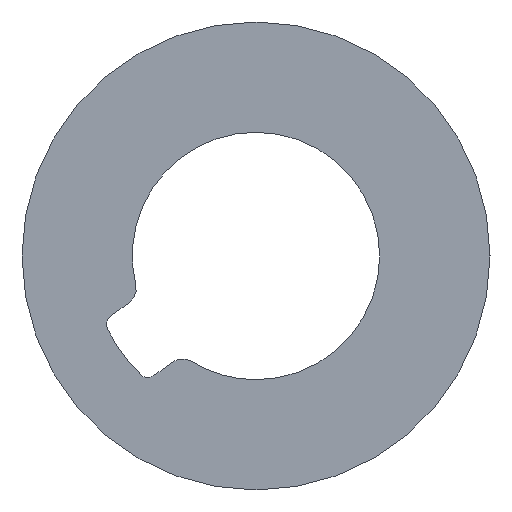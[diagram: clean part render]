
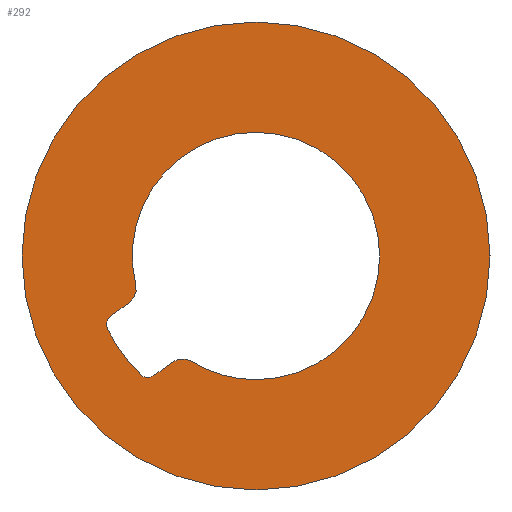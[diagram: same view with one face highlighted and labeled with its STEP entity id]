
A CAD part, left-side view. The second image highlights one B-rep face of the part: STEP entity #292.
In plain terms, the highlighted planar face has unit normal (-1, 0, 0).
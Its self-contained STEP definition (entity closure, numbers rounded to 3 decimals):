
#13 = AXIS2_PLACEMENT_3D ( 'NONE', #361, #360, #359 ) ;
#27 = AXIS2_PLACEMENT_3D ( 'NONE', #418, #416, #415 ) ;
#28 = AXIS2_PLACEMENT_3D ( 'NONE', #424, #423, #422 ) ;
#35 = AXIS2_PLACEMENT_3D ( 'NONE', #459, #457, #456 ) ;
#37 = AXIS2_PLACEMENT_3D ( 'NONE', #472, #471, #470 ) ;
#39 = AXIS2_PLACEMENT_3D ( 'NONE', #484, #482, #481 ) ;
#41 = AXIS2_PLACEMENT_3D ( 'NONE', #498, #496, #495 ) ;
#43 = AXIS2_PLACEMENT_3D ( 'NONE', #524, #522, #521 ) ;
#44 = AXIS2_PLACEMENT_3D ( 'NONE', #358, #354, #525 ) ;
#45 = AXIS2_PLACEMENT_3D ( 'NONE', #371, #367, #363 ) ;
#47 = AXIS2_PLACEMENT_3D ( 'NONE', #421, #417, #414 ) ;
#48 = AXIS2_PLACEMENT_3D ( 'NONE', #432, #429, #425 ) ;
#49 = EDGE_CURVE ( 'NONE', #458, #497, #230, .T. ) ;
#50 = EDGE_CURVE ( 'NONE', #507, #483, #228, .T. ) ;
#54 = EDGE_CURVE ( 'NONE', #497, #501, #221, .T. ) ;
#55 = EDGE_CURVE ( 'NONE', #501, #507, #216, .T. ) ;
#56 = EDGE_CURVE ( 'NONE', #483, #510, #215, .T. ) ;
#57 = EDGE_CURVE ( 'NONE', #510, #480, #213, .T. ) ;
#65 = EDGE_CURVE ( 'NONE', #451, #513, #197, .T. ) ;
#69 = EDGE_CURVE ( 'NONE', #519, #490, #189, .T. ) ;
#72 = EDGE_CURVE ( 'NONE', #469, #519, #183, .T. ) ;
#76 = EDGE_CURVE ( 'NONE', #490, #458, #175, .T. ) ;
#85 = EDGE_CURVE ( 'NONE', #513, #451, #157, .T. ) ;
#86 = EDGE_CURVE ( 'NONE', #480, #487, #158, .T. ) ;
#87 = EDGE_CURVE ( 'NONE', #487, #469, #154, .T. ) ;
#93 = ORIENTED_EDGE ( 'NONE', *, *, #86, .T. ) ;
#94 = ORIENTED_EDGE ( 'NONE', *, *, #65, .F. ) ;
#95 = ORIENTED_EDGE ( 'NONE', *, *, #85, .F. ) ;
#96 = ORIENTED_EDGE ( 'NONE', *, *, #87, .T. ) ;
#97 = ORIENTED_EDGE ( 'NONE', *, *, #69, .T. ) ;
#98 = ORIENTED_EDGE ( 'NONE', *, *, #72, .T. ) ;
#104 = ORIENTED_EDGE ( 'NONE', *, *, #54, .T. ) ;
#105 = ORIENTED_EDGE ( 'NONE', *, *, #49, .T. ) ;
#106 = ORIENTED_EDGE ( 'NONE', *, *, #76, .T. ) ;
#107 = ORIENTED_EDGE ( 'NONE', *, *, #56, .T. ) ;
#108 = ORIENTED_EDGE ( 'NONE', *, *, #50, .T. ) ;
#109 = ORIENTED_EDGE ( 'NONE', *, *, #55, .T. ) ;
#110 = ORIENTED_EDGE ( 'NONE', *, *, #57, .T. ) ;
#131 = FACE_BOUND ( 'NONE', #235, .T. ) ;
#132 = FACE_OUTER_BOUND ( 'NONE', #236, .T. ) ;
#154 = CIRCLE ( 'NONE', #27, 0.5 ) ;
#156 = VECTOR ( 'NONE', #419, 1000. ) ;
#157 = CIRCLE ( 'NONE', #28, 7. ) ;
#158 = LINE ( 'NONE', #420, #156 ) ;
#175 = CIRCLE ( 'NONE', #35, 3.7 ) ;
#183 = CIRCLE ( 'NONE', #37, 3.7 ) ;
#189 = CIRCLE ( 'NONE', #39, 3.7 ) ;
#197 = CIRCLE ( 'NONE', #41, 7. ) ;
#213 = CIRCLE ( 'NONE', #43, 0.3 ) ;
#215 = CIRCLE ( 'NONE', #44, 4.95 ) ;
#216 = CIRCLE ( 'NONE', #45, 0.3 ) ;
#220 = VECTOR ( 'NONE', #376, 1000. ) ;
#221 = LINE ( 'NONE', #379, #220 ) ;
#228 = CIRCLE ( 'NONE', #47, 0.3 ) ;
#230 = CIRCLE ( 'NONE', #48, 0.5 ) ;
#235 = EDGE_LOOP ( 'NONE', ( #93, #96, #98, #97, #106, #105, #104, #109, #108, #107, #110 ) ) ;
#236 = EDGE_LOOP ( 'NONE', ( #95, #94 ) ) ;
#292 = ADVANCED_FACE ( 'NONE', ( #132, #131 ), #362, .F. ) ;
#318 = CARTESIAN_POINT ( 'NONE',  ( -389.5, 0., 3.7 ) ) ;
#320 = CARTESIAN_POINT ( 'NONE',  ( -389.5, 0., 7. ) ) ;
#321 = CARTESIAN_POINT ( 'NONE',  ( -389.5, 4.445, -2.177 ) ) ;
#322 = CARTESIAN_POINT ( 'NONE',  ( -389.5, 3.236, -3.64 ) ) ;
#324 = CARTESIAN_POINT ( 'NONE',  ( -389.5, 3.059, -3.582 ) ) ;
#325 = CARTESIAN_POINT ( 'NONE',  ( -389.5, 2.495, -3.172 ) ) ;
#327 = CARTESIAN_POINT ( 'NONE',  ( -389.5, 0., -3.7 ) ) ;
#328 = CARTESIAN_POINT ( 'NONE',  ( -389.5, 3.788, -1.393 ) ) ;
#329 = CARTESIAN_POINT ( 'NONE',  ( -389.5, 3.444, -3.555 ) ) ;
#330 = CARTESIAN_POINT ( 'NONE',  ( -389.5, 4.352, -1.803 ) ) ;
#333 = CARTESIAN_POINT ( 'NONE',  ( -389.5, 3.596, -0.87 ) ) ;
#336 = CARTESIAN_POINT ( 'NONE',  ( -389.5, 1.939, -3.151 ) ) ;
#338 = CARTESIAN_POINT ( 'NONE',  ( -389.5, 0., -7. ) ) ;
#354 = DIRECTION ( 'NONE',  ( 1., 0., 0. ) ) ;
#358 = CARTESIAN_POINT ( 'NONE',  ( -389.5, 0., 0. ) ) ;
#359 = DIRECTION ( 'NONE',  ( 0., 0., -1. ) ) ;
#360 = DIRECTION ( 'NONE',  ( 1., 0., 0. ) ) ;
#361 = CARTESIAN_POINT ( 'NONE',  ( -389.5, 0., 0. ) ) ;
#362 = PLANE ( 'NONE',  #13 ) ;
#363 = DIRECTION ( 'NONE',  ( 0., 0., 1. ) ) ;
#367 = DIRECTION ( 'NONE',  ( 1., 0., 0. ) ) ;
#371 = CARTESIAN_POINT ( 'NONE',  ( -389.5, 3.236, -3.34 ) ) ;
#376 = DIRECTION ( 'NONE',  ( 0., 0.809, -0.588 ) ) ;
#379 = CARTESIAN_POINT ( 'NONE',  ( -389.5, 3.059, -3.582 ) ) ;
#414 = DIRECTION ( 'NONE',  ( 0., 0., 1. ) ) ;
#415 = DIRECTION ( 'NONE',  ( 0., 0., 1. ) ) ;
#416 = DIRECTION ( 'NONE',  ( -1., 0., 0. ) ) ;
#417 = DIRECTION ( 'NONE',  ( 1., 0., 0. ) ) ;
#418 = CARTESIAN_POINT ( 'NONE',  ( -389.5, 4.082, -0.988 ) ) ;
#419 = DIRECTION ( 'NONE',  ( 0., -0.809, 0.588 ) ) ;
#420 = CARTESIAN_POINT ( 'NONE',  ( -389.5, 3.788, -1.393 ) ) ;
#421 = CARTESIAN_POINT ( 'NONE',  ( -389.5, 3.236, -3.34 ) ) ;
#422 = DIRECTION ( 'NONE',  ( 0., 0., -1. ) ) ;
#423 = DIRECTION ( 'NONE',  ( 1., 0., 0. ) ) ;
#424 = CARTESIAN_POINT ( 'NONE',  ( -389.5, 0., 0. ) ) ;
#425 = DIRECTION ( 'NONE',  ( 0., 0., -1. ) ) ;
#429 = DIRECTION ( 'NONE',  ( -1., 0., 0. ) ) ;
#432 = CARTESIAN_POINT ( 'NONE',  ( -389.5, 2.201, -3.577 ) ) ;
#451 = VERTEX_POINT ( 'NONE', #338 ) ;
#456 = DIRECTION ( 'NONE',  ( 0., 0., -1. ) ) ;
#457 = DIRECTION ( 'NONE',  ( 1., 0., 0. ) ) ;
#458 = VERTEX_POINT ( 'NONE', #336 ) ;
#459 = CARTESIAN_POINT ( 'NONE',  ( -389.5, 0., 0. ) ) ;
#469 = VERTEX_POINT ( 'NONE', #333 ) ;
#470 = DIRECTION ( 'NONE',  ( 0., 0., -1. ) ) ;
#471 = DIRECTION ( 'NONE',  ( 1., 0., 0. ) ) ;
#472 = CARTESIAN_POINT ( 'NONE',  ( -389.5, 0., 0. ) ) ;
#480 = VERTEX_POINT ( 'NONE', #330 ) ;
#481 = DIRECTION ( 'NONE',  ( 0., 0., -1. ) ) ;
#482 = DIRECTION ( 'NONE',  ( 1., 0., 0. ) ) ;
#483 = VERTEX_POINT ( 'NONE', #329 ) ;
#484 = CARTESIAN_POINT ( 'NONE',  ( -389.5, 0., 0. ) ) ;
#487 = VERTEX_POINT ( 'NONE', #328 ) ;
#490 = VERTEX_POINT ( 'NONE', #327 ) ;
#495 = DIRECTION ( 'NONE',  ( 0., 0., -1. ) ) ;
#496 = DIRECTION ( 'NONE',  ( 1., 0., 0. ) ) ;
#497 = VERTEX_POINT ( 'NONE', #325 ) ;
#498 = CARTESIAN_POINT ( 'NONE',  ( -389.5, 0., 0. ) ) ;
#501 = VERTEX_POINT ( 'NONE', #324 ) ;
#507 = VERTEX_POINT ( 'NONE', #322 ) ;
#510 = VERTEX_POINT ( 'NONE', #321 ) ;
#513 = VERTEX_POINT ( 'NONE', #320 ) ;
#519 = VERTEX_POINT ( 'NONE', #318 ) ;
#521 = DIRECTION ( 'NONE',  ( 0., 0., -1. ) ) ;
#522 = DIRECTION ( 'NONE',  ( 1., 0., 0. ) ) ;
#524 = CARTESIAN_POINT ( 'NONE',  ( -389.5, 4.176, -2.045 ) ) ;
#525 = DIRECTION ( 'NONE',  ( 0., 0., 1. ) ) ;
